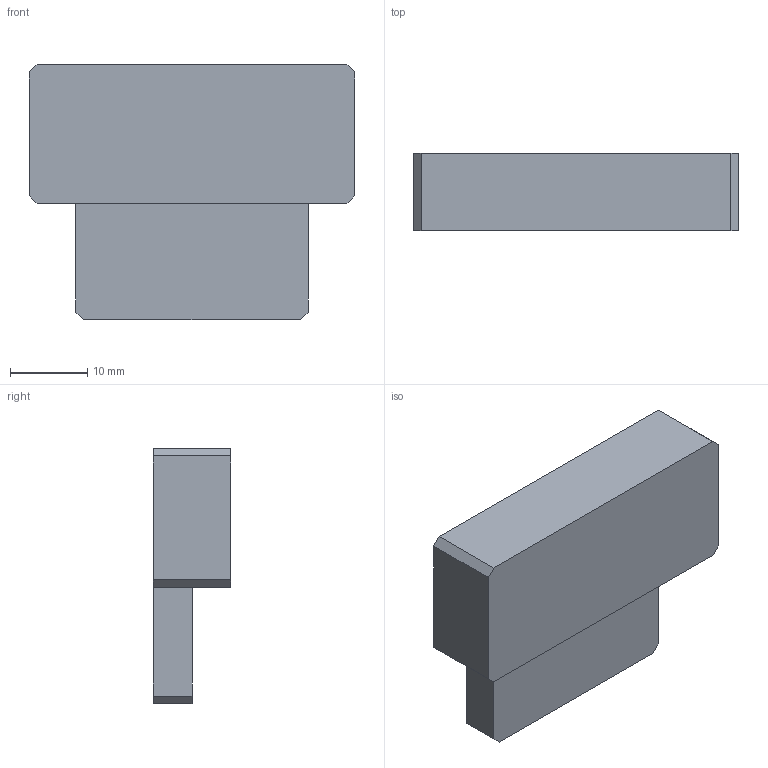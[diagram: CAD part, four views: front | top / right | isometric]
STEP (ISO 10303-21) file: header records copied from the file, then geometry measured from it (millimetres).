
FILE_DESCRIPTION(('CATIA V5 STEP Exchange'),'2;1');
FILE_NAME('C:\Users\hh\Desktop\AGZ102\AGZ102.04_V1.stp','2023-09-23T05:34:08+00:00',('none'),('none'),'CATIA Version 5 Release 21 GA (IN-10)','CATIA V5 STEP AP214','none');
FILE_SCHEMA(('AUTOMOTIVE_DESIGN { 1 0 10303 214 1 1 1 1 }'));
Length unit declared in the file: millimetre
Products named in the file (1): 插挡
Bounding box: 42 x 10 x 33 mm (x, y, z)
Volume: 9785 mm3; surface area: 3726.7 mm2
Topology: 1 solids, 1 shells, 16 faces, 42 edges, 28 vertices
Faces by surface type: plane 16
Entity records: 508 total; most frequent: CARTESIAN_POINT 87, ORIENTED_EDGE 84, DIRECTION 74, VECTOR 42, EDGE_CURVE 42, LINE 42, VERTEX_POINT 28, AXIS2_PLACEMENT_3D 17
